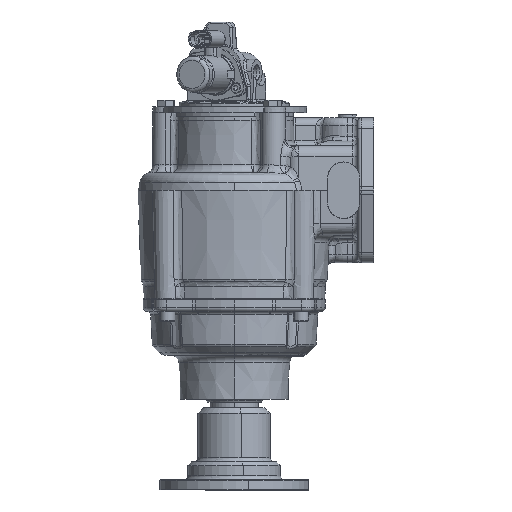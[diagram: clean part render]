
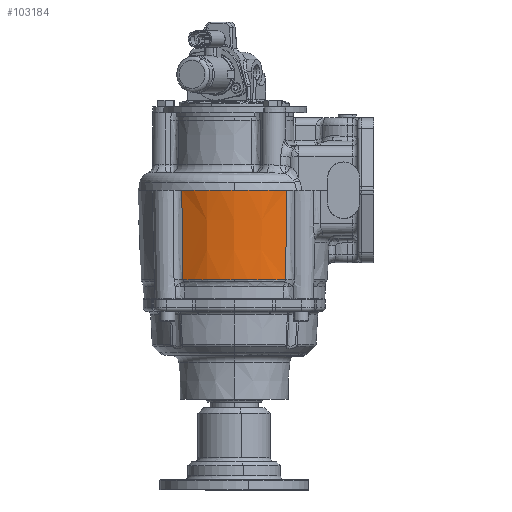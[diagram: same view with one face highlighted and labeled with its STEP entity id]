
A CAD part, left-side view. The second image highlights one B-rep face of the part: STEP entity #103184.
In plain terms, the highlighted conical face has half-angle 1.909 degrees and reference radius 76.073 mm.
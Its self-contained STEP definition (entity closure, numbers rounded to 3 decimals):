
#3788 = EDGE_CURVE ( 'NONE', #211021, #25461, #52179, .T. ) ;
#6170 = AXIS2_PLACEMENT_3D ( 'NONE', #10048, #26622, #77083 ) ;
#6693 = ORIENTED_EDGE ( 'NONE', *, *, #156476, .F. ) ;
#6701 = CARTESIAN_POINT ( 'NONE',  ( -100.673, 89.405, 0. ) ) ;
#8495 = VERTEX_POINT ( 'NONE', #203032 ) ;
#10048 = CARTESIAN_POINT ( 'NONE',  ( -24.6, 89.405, -70.591 ) ) ;
#10432 = DIRECTION ( 'NONE',  ( 0., 0., -1. ) ) ;
#25461 = VERTEX_POINT ( 'NONE', #90553 ) ;
#26622 = DIRECTION ( 'NONE',  ( 0., 0., -1. ) ) ;
#27890 = CARTESIAN_POINT ( 'NONE',  ( -98.32, 89.405, -70.591 ) ) ;
#28448 = ORIENTED_EDGE ( 'NONE', *, *, #168038, .T. ) ;
#29508 = DIRECTION ( 'NONE',  ( 1., 0., 0. ) ) ;
#33707 = CARTESIAN_POINT ( 'NONE',  ( -88.467, 48.076, 0. ) ) ;
#44889 = B_SPLINE_CURVE_WITH_KNOTS ( 'NONE', 3,
 ( #49941, #100391, #80620, #213473 ),
 .UNSPECIFIED., .F., .F.,
 ( 4, 4 ),
 ( 0., 0.071 ),
 .UNSPECIFIED. ) ;
#48858 = EDGE_CURVE ( 'NONE', #107568, #205159, #113384, .T. ) ;
#49941 = CARTESIAN_POINT ( 'NONE',  ( -88.467, 130.735, 0. ) ) ;
#52179 = CIRCLE ( 'NONE', #202797, 73.72 ) ;
#60194 = CARTESIAN_POINT ( 'NONE',  ( -86.075, 48.718, -70.591 ) ) ;
#69475 = CIRCLE ( 'NONE', #164323, 76.073 ) ;
#74617 = EDGE_LOOP ( 'NONE', ( #6693, #162407, #28448, #78830, #142091, #161841 ) ) ;
#75266 = CARTESIAN_POINT ( 'NONE',  ( -24.6, 89.405, -70.591 ) ) ;
#77083 = DIRECTION ( 'NONE',  ( -1., 0., 0. ) ) ;
#77798 = DIRECTION ( 'NONE',  ( 0., 0., 1. ) ) ;
#78830 = ORIENTED_EDGE ( 'NONE', *, *, #173301, .T. ) ;
#80620 = CARTESIAN_POINT ( 'NONE',  ( -86.889, 130.284, -47.061 ) ) ;
#90553 = CARTESIAN_POINT ( 'NONE',  ( -86.075, 130.092, -70.591 ) ) ;
#92149 = VERTEX_POINT ( 'NONE', #6701 ) ;
#100391 = CARTESIAN_POINT ( 'NONE',  ( -87.685, 130.499, -23.531 ) ) ;
#103184 = ADVANCED_FACE ( 'NONE', ( #126214 ), #156082, .T. ) ;
#107568 = VERTEX_POINT ( 'NONE', #60194 ) ;
#107941 = CARTESIAN_POINT ( 'NONE',  ( -86.889, 48.526, -47.061 ) ) ;
#112990 = CARTESIAN_POINT ( 'NONE',  ( -24.6, 89.405, 0. ) ) ;
#113384 = B_SPLINE_CURVE_WITH_KNOTS ( 'NONE', 3,
 ( #158447, #107941, #174940, #208837 ),
 .UNSPECIFIED., .F., .F.,
 ( 4, 4 ),
 ( 0., 0.071 ),
 .UNSPECIFIED. ) ;
#114042 = CARTESIAN_POINT ( 'NONE',  ( -24.6, 89.405, 0. ) ) ;
#126214 = FACE_OUTER_BOUND ( 'NONE', #74617, .T. ) ;
#126953 = DIRECTION ( 'NONE',  ( -1., 0., 0. ) ) ;
#128209 = DIRECTION ( 'NONE',  ( -1., 0., 0. ) ) ;
#129016 = CIRCLE ( 'NONE', #6170, 73.72 ) ;
#130485 = DIRECTION ( 'NONE',  ( -1., 0., 0. ) ) ;
#142091 = ORIENTED_EDGE ( 'NONE', *, *, #183459, .T. ) ;
#156082 = CONICAL_SURFACE ( 'NONE', #170216, 76.073, 0.033 ) ;
#156476 = EDGE_CURVE ( 'NONE', #107568, #211021, #129016, .T. ) ;
#158447 = CARTESIAN_POINT ( 'NONE',  ( -86.075, 48.718, -70.591 ) ) ;
#161841 = ORIENTED_EDGE ( 'NONE', *, *, #3788, .F. ) ;
#162407 = ORIENTED_EDGE ( 'NONE', *, *, #48858, .T. ) ;
#162986 = AXIS2_PLACEMENT_3D ( 'NONE', #114042, #182067, #130485 ) ;
#164323 = AXIS2_PLACEMENT_3D ( 'NONE', #175534, #194060, #128209 ) ;
#168038 = EDGE_CURVE ( 'NONE', #205159, #92149, #69475, .T. ) ;
#170216 = AXIS2_PLACEMENT_3D ( 'NONE', #112990, #77798, #29508 ) ;
#173301 = EDGE_CURVE ( 'NONE', #92149, #8495, #215636, .T. ) ;
#174940 = CARTESIAN_POINT ( 'NONE',  ( -87.685, 48.311, -23.531 ) ) ;
#175534 = CARTESIAN_POINT ( 'NONE',  ( -24.6, 89.405, 0. ) ) ;
#182067 = DIRECTION ( 'NONE',  ( 0., 0., -1. ) ) ;
#183459 = EDGE_CURVE ( 'NONE', #8495, #25461, #44889, .T. ) ;
#194060 = DIRECTION ( 'NONE',  ( 0., 0., -1. ) ) ;
#202797 = AXIS2_PLACEMENT_3D ( 'NONE', #75266, #10432, #126953 ) ;
#203032 = CARTESIAN_POINT ( 'NONE',  ( -88.467, 130.735, 0. ) ) ;
#205159 = VERTEX_POINT ( 'NONE', #33707 ) ;
#208837 = CARTESIAN_POINT ( 'NONE',  ( -88.467, 48.076, 0. ) ) ;
#211021 = VERTEX_POINT ( 'NONE', #27890 ) ;
#213473 = CARTESIAN_POINT ( 'NONE',  ( -86.075, 130.092, -70.591 ) ) ;
#215636 = CIRCLE ( 'NONE', #162986, 76.073 ) ;
